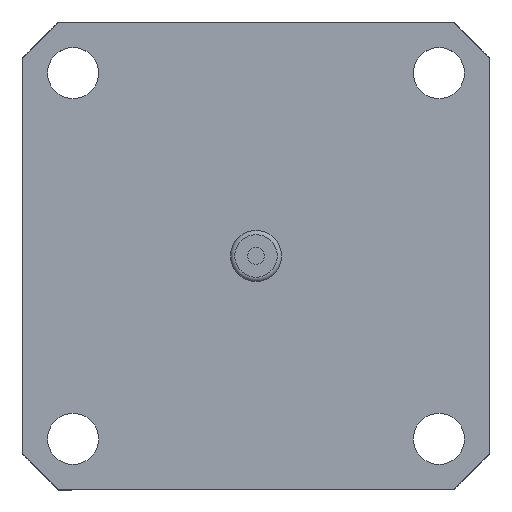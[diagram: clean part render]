
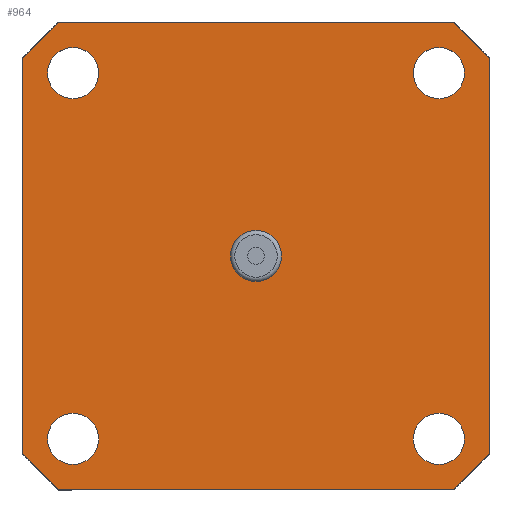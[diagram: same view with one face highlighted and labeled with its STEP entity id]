
A CAD part, top view. The second image highlights one B-rep face of the part: STEP entity #964.
In plain terms, the highlighted planar face has unit normal (0, 0, 1).
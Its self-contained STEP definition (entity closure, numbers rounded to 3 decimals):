
#53=FACE_BOUND('',#357,.T.);
#54=FACE_BOUND('',#358,.T.);
#55=FACE_BOUND('',#359,.T.);
#56=FACE_BOUND('',#360,.T.);
#57=FACE_BOUND('',#361,.T.);
#88=PLANE('',#1082);
#102=LINE('',#1434,#152);
#107=LINE('',#1452,#157);
#110=LINE('',#1462,#160);
#113=LINE('',#1467,#163);
#115=LINE('',#1471,#165);
#116=LINE('',#1473,#166);
#118=LINE('',#1477,#168);
#119=LINE('',#1479,#169);
#152=VECTOR('',#1135,6.034);
#157=VECTOR('',#1154,6.034);
#160=VECTOR('',#1165,46.466);
#163=VECTOR('',#1170,46.466);
#165=VECTOR('',#1174,6.034);
#166=VECTOR('',#1177,46.466);
#168=VECTOR('',#1181,46.466);
#169=VECTOR('',#1184,6.034);
#267=FACE_OUTER_BOUND('',#356,.T.);
#356=EDGE_LOOP('',(#823,#824,#825,#826,#827,#828,#829,#830));
#357=EDGE_LOOP('',(#831));
#358=EDGE_LOOP('',(#832));
#359=EDGE_LOOP('',(#833));
#360=EDGE_LOOP('',(#834));
#361=EDGE_LOOP('',(#835));
#383=CIRCLE('',#1007,3.);
#384=CIRCLE('',#1009,3.);
#385=CIRCLE('',#1011,3.);
#386=CIRCLE('',#1013,3.);
#424=CIRCLE('',#1083,3.);
#447=VERTEX_POINT('',#1431);
#448=VERTEX_POINT('',#1433);
#453=VERTEX_POINT('',#1449);
#454=VERTEX_POINT('',#1451);
#457=VERTEX_POINT('',#1461);
#458=VERTEX_POINT('',#1465);
#459=VERTEX_POINT('',#1469);
#460=VERTEX_POINT('',#1475);
#461=VERTEX_POINT('',#1481);
#462=VERTEX_POINT('',#1484);
#463=VERTEX_POINT('',#1487);
#464=VERTEX_POINT('',#1490);
#508=VERTEX_POINT('',#1626);
#533=EDGE_CURVE('',#447,#448,#102,.T.);
#542=EDGE_CURVE('',#453,#454,#107,.T.);
#547=EDGE_CURVE('',#454,#457,#110,.T.);
#550=EDGE_CURVE('',#458,#453,#113,.T.);
#552=EDGE_CURVE('',#459,#458,#115,.T.);
#553=EDGE_CURVE('',#448,#459,#116,.T.);
#555=EDGE_CURVE('',#460,#447,#118,.T.);
#556=EDGE_CURVE('',#457,#460,#119,.T.);
#557=EDGE_CURVE('',#461,#461,#383,.T.);
#558=EDGE_CURVE('',#462,#462,#384,.T.);
#559=EDGE_CURVE('',#463,#463,#385,.T.);
#560=EDGE_CURVE('',#464,#464,#386,.T.);
#620=EDGE_CURVE('',#508,#508,#424,.T.);
#823=ORIENTED_EDGE('',*,*,#542,.F.);
#824=ORIENTED_EDGE('',*,*,#550,.F.);
#825=ORIENTED_EDGE('',*,*,#552,.F.);
#826=ORIENTED_EDGE('',*,*,#553,.F.);
#827=ORIENTED_EDGE('',*,*,#533,.F.);
#828=ORIENTED_EDGE('',*,*,#555,.F.);
#829=ORIENTED_EDGE('',*,*,#556,.F.);
#830=ORIENTED_EDGE('',*,*,#547,.F.);
#831=ORIENTED_EDGE('',*,*,#557,.T.);
#832=ORIENTED_EDGE('',*,*,#558,.T.);
#833=ORIENTED_EDGE('',*,*,#559,.T.);
#834=ORIENTED_EDGE('',*,*,#560,.T.);
#835=ORIENTED_EDGE('',*,*,#620,.F.);
#964=ADVANCED_FACE('',(#267,#53,#54,#55,#56,#57),#88,.T.);
#1007=AXIS2_PLACEMENT_3D('',#1482,#1187,#1188);
#1009=AXIS2_PLACEMENT_3D('',#1485,#1191,#1192);
#1011=AXIS2_PLACEMENT_3D('',#1488,#1195,#1196);
#1013=AXIS2_PLACEMENT_3D('',#1491,#1199,#1200);
#1082=AXIS2_PLACEMENT_3D('',#1625,#1359,#1360);
#1083=AXIS2_PLACEMENT_3D('',#1627,#1361,#1362);
#1135=DIRECTION('',(-0.707,0.707,0.));
#1154=DIRECTION('',(0.707,-0.707,0.));
#1165=DIRECTION('',(0.,-1.,0.));
#1170=DIRECTION('',(1.,0.,0.));
#1174=DIRECTION('',(0.707,0.707,0.));
#1177=DIRECTION('',(0.,1.,0.));
#1181=DIRECTION('',(-1.,0.,0.));
#1184=DIRECTION('',(-0.707,-0.707,0.));
#1187=DIRECTION('center_axis',(0.,0.,-1.));
#1188=DIRECTION('ref_axis',(-1.,0.,0.));
#1191=DIRECTION('center_axis',(0.,0.,-1.));
#1192=DIRECTION('ref_axis',(-1.,0.,0.));
#1195=DIRECTION('center_axis',(0.,0.,-1.));
#1196=DIRECTION('ref_axis',(-1.,0.,0.));
#1199=DIRECTION('center_axis',(0.,0.,-1.));
#1200=DIRECTION('ref_axis',(-1.,0.,0.));
#1359=DIRECTION('center_axis',(0.,0.,1.));
#1360=DIRECTION('ref_axis',(1.,0.,0.));
#1361=DIRECTION('center_axis',(0.,0.,1.));
#1362=DIRECTION('ref_axis',(0.,-1.,0.));
#1431=CARTESIAN_POINT('',(-23.233,-27.5,0.));
#1433=CARTESIAN_POINT('',(-27.5,-23.233,0.));
#1434=CARTESIAN_POINT('',(-21.554,-29.179,0.));
#1449=CARTESIAN_POINT('',(23.233,27.5,0.));
#1451=CARTESIAN_POINT('',(27.5,23.233,0.));
#1452=CARTESIAN_POINT('',(29.179,21.554,0.));
#1461=CARTESIAN_POINT('',(27.5,-23.233,0.));
#1462=CARTESIAN_POINT('',(27.5,27.5,0.));
#1465=CARTESIAN_POINT('',(-23.233,27.5,0.));
#1467=CARTESIAN_POINT('',(-27.5,27.5,0.));
#1469=CARTESIAN_POINT('',(-27.5,23.233,0.));
#1471=CARTESIAN_POINT('',(-29.179,21.554,0.));
#1473=CARTESIAN_POINT('',(-27.5,-27.5,0.));
#1475=CARTESIAN_POINT('',(23.233,-27.5,0.));
#1477=CARTESIAN_POINT('',(27.5,-27.5,0.));
#1479=CARTESIAN_POINT('',(21.554,-29.179,0.));
#1481=CARTESIAN_POINT('',(-18.5,-21.5,0.));
#1482=CARTESIAN_POINT('Origin',(-21.5,-21.5,0.));
#1484=CARTESIAN_POINT('',(24.5,-21.5,0.));
#1485=CARTESIAN_POINT('Origin',(21.5,-21.5,0.));
#1487=CARTESIAN_POINT('',(24.5,21.5,0.));
#1488=CARTESIAN_POINT('Origin',(21.5,21.5,0.));
#1490=CARTESIAN_POINT('',(-18.5,21.5,0.));
#1491=CARTESIAN_POINT('Origin',(-21.5,21.5,0.));
#1625=CARTESIAN_POINT('Origin',(0.,-15.25,0.));
#1626=CARTESIAN_POINT('',(0.,-3.,0.));
#1627=CARTESIAN_POINT('Origin',(0.,0.,0.));
